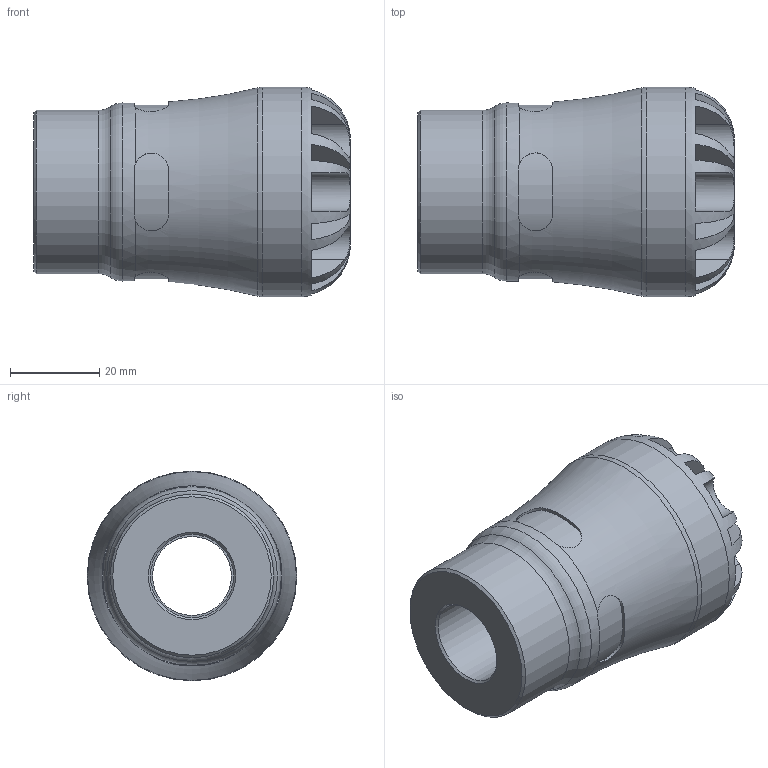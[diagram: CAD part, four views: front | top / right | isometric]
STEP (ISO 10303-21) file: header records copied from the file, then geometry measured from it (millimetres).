
FILE_DESCRIPTION(/* description */ ('PLASSON FEMALE ADAPTOR 3/4''''CTS x 3/4''''NPT SERIES 1'),/* implementation_level */ '2;1');
FILE_NAME(/* name */ 'C:\Dropbox\KIMPROJECTS-Inventor 2019\99-16-3568-Processing Inch\ASTM S1 2021\1003Z\1003Z0007007.ipt.stp',/* time_stamp */ '2021-09-02T12:00:28+03:00',/* author */ ('KIM'),/* organization */ (''),/* preprocessor_version */ 'ST-DEVELOPER v17.2',/* originating_system */ 'Autodesk Inventor 2019',/* authorisation */ '');
FILE_SCHEMA (('AUTOMOTIVE_DESIGN { 1 0 10303 214 3 1 1 }'));
Length unit declared in the file: inch
Products named in the file (1): 1003Z0007007
Bounding box: 70.87 x 46.99 x 46.99 mm (x, y, z)
Volume: 65818.6 mm3; surface area: 17849 mm2
Topology: 1 solids, 1 shells, 104 faces, 282 edges, 183 vertices
Faces by surface type: plane 61, cylinder 35, torus 5, cone 3
Full cylindrical faces by diameter (mm): 17.699 x1, 18.417 x1, 18.631 x1, 22.1 x1, 36.652 x1, 39.941 x1, 46.99 x1
Entity records: 4264 total; most frequent: CARTESIAN_POINT 1514, ORIENTED_EDGE 564, DIRECTION 540, EDGE_CURVE 282, AXIS2_PLACEMENT_3D 225, VERTEX_POINT 183, CIRCLE 120, EDGE_LOOP 109
